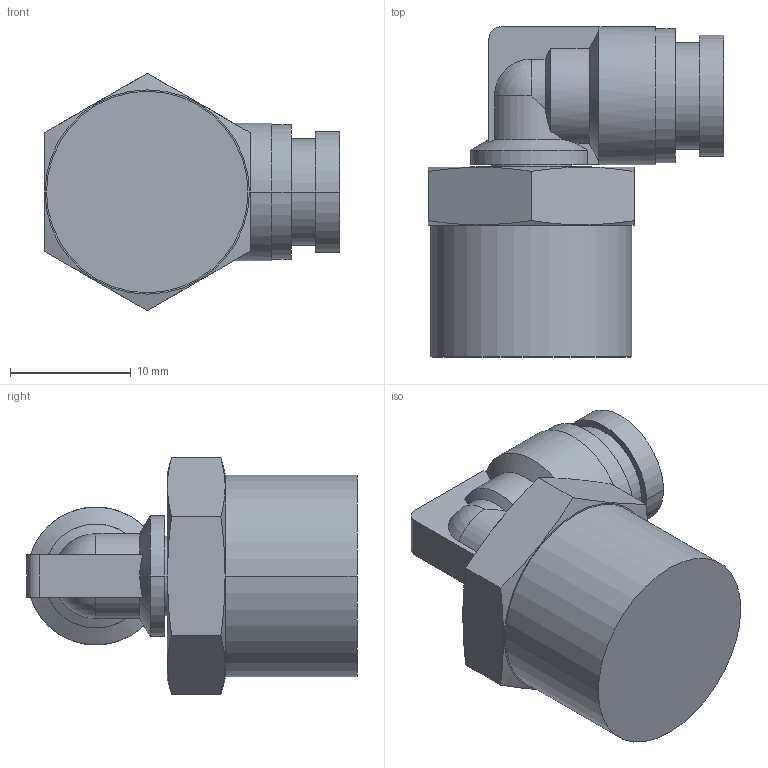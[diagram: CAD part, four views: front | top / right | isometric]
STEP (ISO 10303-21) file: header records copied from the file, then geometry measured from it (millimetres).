
FILE_DESCRIPTION( ( '' ), '1' );
FILE_NAME( 'G:/SMC狟婥/KQ2L06-03AS.stp', '2023-03-07T03:02:39', ( '' ), ( '' ), ' ', ' ', ' ' );
FILE_SCHEMA( ( 'CONFIG_CONTROL_DESIGN' ) );
Length unit declared in the file: millimetre
Products named in the file (1): 1
Bounding box: 24.4 x 27.3 x 19.63 mm (x, y, z)
Volume: 4759.2 mm3; surface area: 2457.8 mm2
Topology: 1 solids, 1 shells, 60 faces, 146 edges, 93 vertices
Faces by surface type: plane 25, cylinder 23, cone 10, sphere 2
Entity records: 1800 total; most frequent: CARTESIAN_POINT 396, DIRECTION 290, ORIENTED_EDGE 288, EDGE_CURVE 144, AXIS2_PLACEMENT_3D 119, VERTEX_POINT 93, EDGE_LOOP 67, ADVANCED_FACE 60
